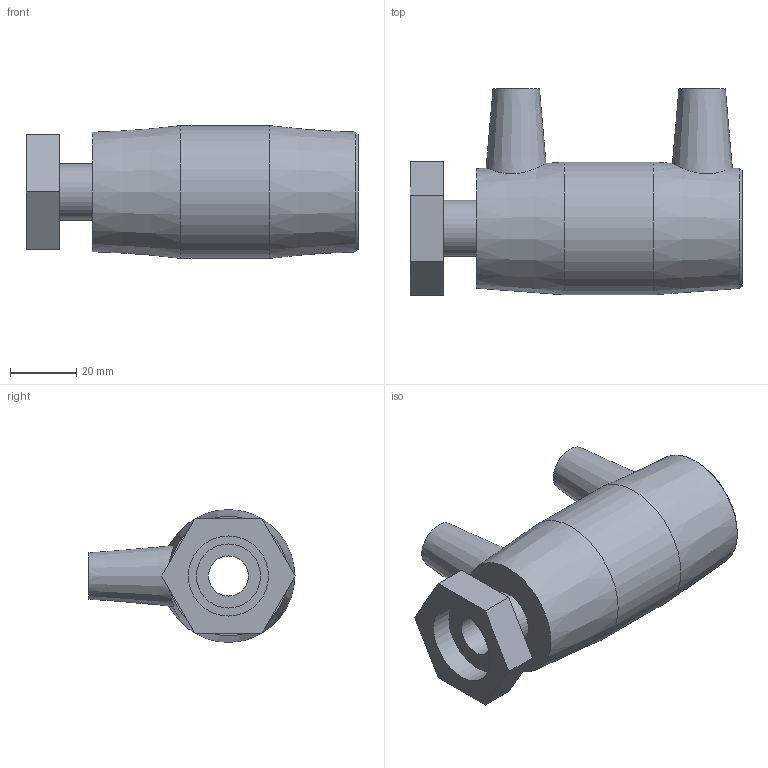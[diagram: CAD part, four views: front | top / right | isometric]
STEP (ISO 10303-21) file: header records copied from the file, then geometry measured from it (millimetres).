
FILE_DESCRIPTION(/* description */ ('PLASSON FEMALE FREE NUT TRANSITION COUPLER 32-3/4"'),/* implementation_level */ '2;1');
FILE_NAME(/* name */ '494104032007.stp',/* time_stamp */ '2026-05-12T11:34:26+03:00',/* author */ ('KIM'),/* organization */ (''),/* preprocessor_version */ 'ST-DEVELOPER v20.1',/* originating_system */ 'Autodesk Inventor 2026',/* authorisation */ '');
FILE_SCHEMA (('AUTOMOTIVE_DESIGN { 1 0 10303 214 3 1 1 }'));
Length unit declared in the file: millimetre
Products named in the file (1): 494104032007
Bounding box: 100 x 62.06 x 40 mm (x, y, z)
Volume: 50379.5 mm3; surface area: 27042.2 mm2
Topology: 1 solids, 1 shells, 36 faces, 66 edges, 44 vertices
Faces by surface type: plane 20, cylinder 11, cone 5
Full cylindrical faces by diameter (mm): 4 x2, 10 x2, 12.059 x1, 16.882 x1, 19.294 x1, 24.117 x1, 30.4 x1, 32 x1, 40 x1
Entity records: 1005 total; most frequent: CARTESIAN_POINT 215, DIRECTION 164, ORIENTED_EDGE 132, EDGE_CURVE 66, AXIS2_PLACEMENT_3D 65, EDGE_LOOP 50, VERTEX_POINT 44, FACE_OUTER_BOUND 36
